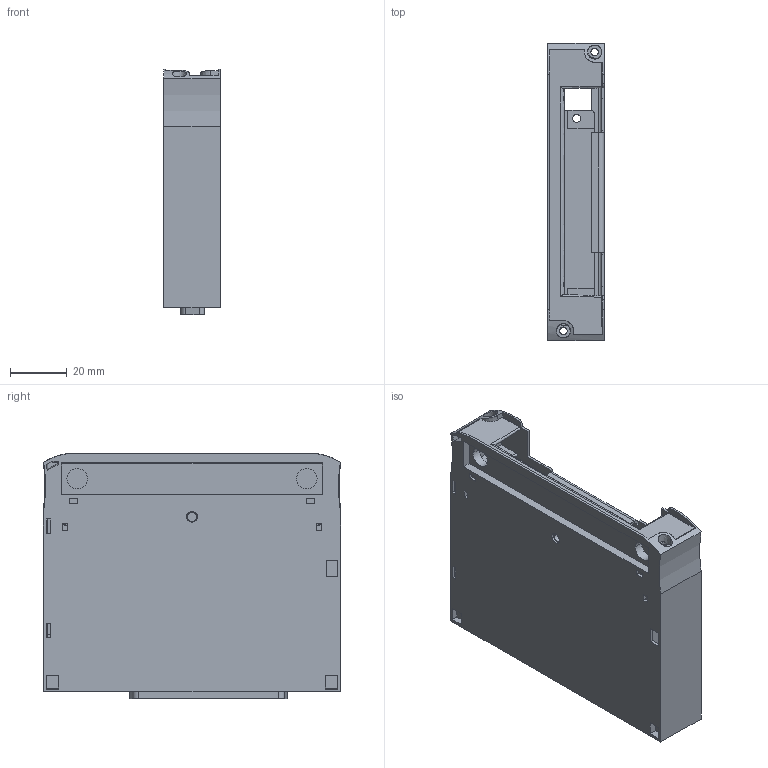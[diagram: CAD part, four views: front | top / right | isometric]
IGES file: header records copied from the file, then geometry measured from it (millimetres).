
Start section:  PTC IGES file: cu_tb-2666.igs
Global section: file name: cu_tb-2666.igs; native system: Pro/ENGINEER by Parametric Technology Corporation; preprocessor: 2010230; author: jjorden; organization: Unknown; date: 20110815.074007; units: inch
Bounding box: 20.02 x 104.92 x 86.55 mm (x, y, z)
Surface area: 65806.7 mm2 (no closed solid volume)
Topology: 0 solids, 0 shells, 996 faces, 5106 edges, 5106 vertices
Faces by surface type: revolution 560, bspline 436
